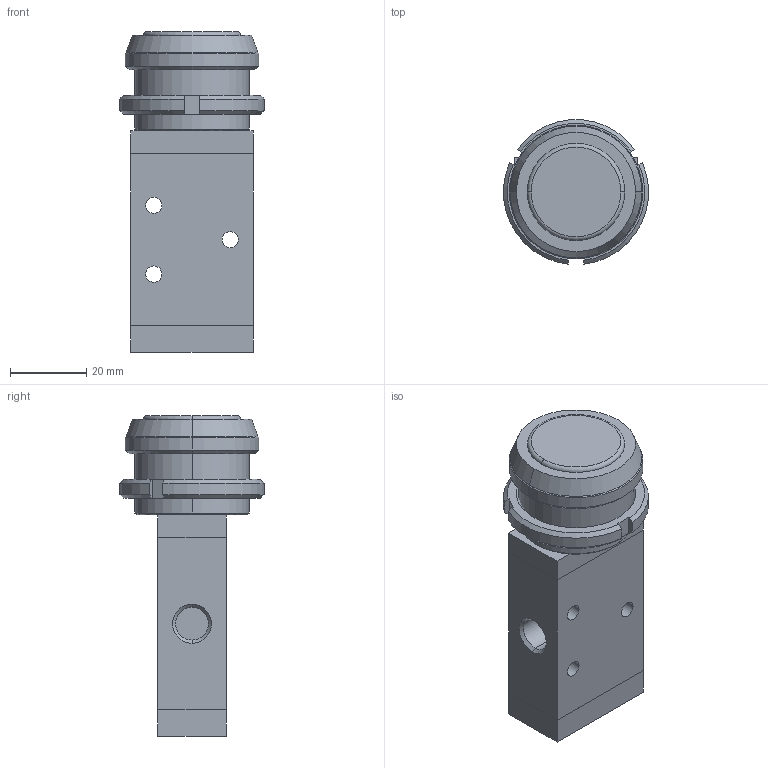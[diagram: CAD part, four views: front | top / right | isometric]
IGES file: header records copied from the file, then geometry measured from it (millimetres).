
Global section: file name: No Iges File Name specified; native system: AutoDesk Inventor R11.0; preprocessor: AutoDesk Inventor Iges Exporter R11.0; author: No Author specified; organization: No Organization specified; date: 20061219.113832; units: millimetre
Bounding box: 37.89 x 37.82 x 84 mm (x, y, z)
Volume: 53122.9 mm3; surface area: 13191.9 mm2
Topology: 2 solids, 2 shells, 83 faces, 194 edges, 122 vertices
Faces by surface type: plane 33, bspline 19, cone 14, revolution 8, cylinder 7, torus 2
